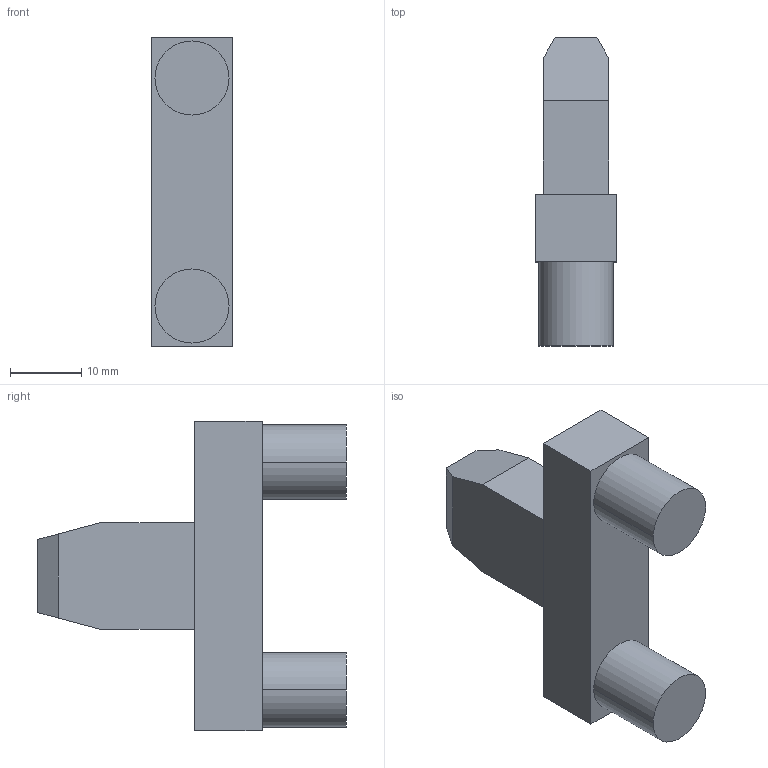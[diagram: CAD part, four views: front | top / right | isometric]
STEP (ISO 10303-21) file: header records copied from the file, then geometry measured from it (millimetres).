
FILE_DESCRIPTION (( 'STEP AP214' ), '1' );
FILE_NAME ('_Frontbefestigung Dübel.step', '2010-07-06T11:54:35', ( 'grass' ), ( '' ), 'SwSTEP 2.0', 'SolidWorks 2010', '' );
FILE_SCHEMA (( 'AUTOMOTIVE_DESIGN' ));
Length unit declared in the file: millimetre
Products named in the file (1): _Frontbefestigung Dübel
Bounding box: 11.5 x 43.3 x 43.5 mm (x, y, z)
Volume: 9285.8 mm3; surface area: 4018.1 mm2
Topology: 1 solids, 1 shells, 27 faces, 60 edges, 40 vertices
Faces by surface type: plane 19, cylinder 8
Entity records: 784 total; most frequent: DIRECTION 132, CARTESIAN_POINT 128, ORIENTED_EDGE 120, EDGE_CURVE 60, VECTOR 44, LINE 44, AXIS2_PLACEMENT_3D 44, VERTEX_POINT 40
